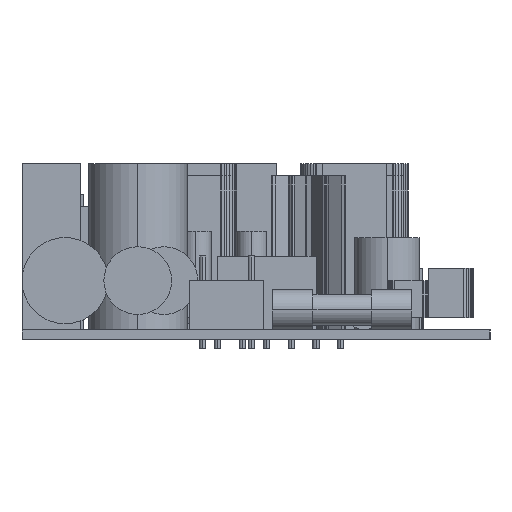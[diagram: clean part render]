
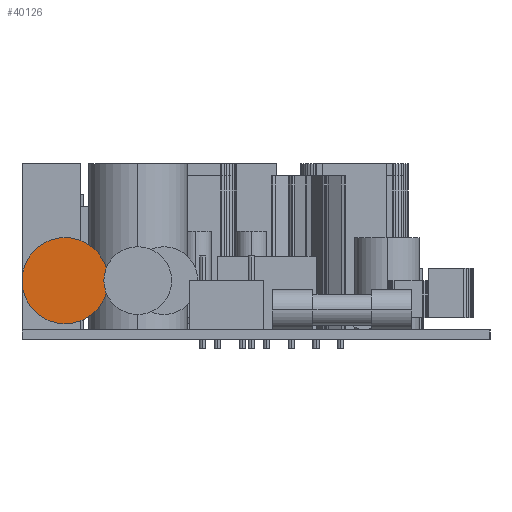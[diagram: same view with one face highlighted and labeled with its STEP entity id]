
A CAD part, left-side view. The second image highlights one B-rep face of the part: STEP entity #40126.
In plain terms, the highlighted planar face has unit normal (-1, 0, 0) as drawn and (0, 0, -1) by its records, which use the part's own axes.
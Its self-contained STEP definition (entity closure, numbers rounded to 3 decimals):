
#40047=CARTESIAN_POINT('',(0.,0.,0.));
#40048=DIRECTION('',(0.,0.,1.));
#40049=DIRECTION('',(1.,0.,0.));
#40050=AXIS2_PLACEMENT_3D('',#40047,#40048,#40049);
#40055=CARTESIAN_POINT('',(0.,0.,0.));
#40056=DIRECTION('',(0.,0.,1.));
#40057=DIRECTION('',(-1.,0.,0.));
#40058=AXIS2_PLACEMENT_3D('',#40055,#40056,#40057);
#40080=CARTESIAN_POINT('',(-7.,0.,0.));
#40082=VERTEX_POINT('',#40080);
#40083=CARTESIAN_POINT('',(7.,0.,0.));
#40084=VERTEX_POINT('',#40083);
#40117=CARTESIAN_POINT('',(7.,0.,0.));
#40118=DIRECTION('',(0.,0.,-1.));
#40119=DIRECTION('',(-1.,0.,0.));
#40120=AXIS2_PLACEMENT_3D('',#40117,#40118,#40119);
#40121=PLANE('',#40120);
#40122=ORIENTED_EDGE('',*,*,#40109,.T.);
#40123=ORIENTED_EDGE('',*,*,#40098,.T.);
#40124=EDGE_LOOP('',(#40122,#40123));
#40125=FACE_OUTER_BOUND('',#40124,.F.);
#40051=CIRCLE('',#40050,7.);
#40059=CIRCLE('',#40058,7.);
#40098=EDGE_CURVE('',#40082,#40084,#40059,.T.);
#40109=EDGE_CURVE('',#40084,#40082,#40051,.T.);
#40126=ADVANCED_FACE('',(#40125),#40121,.T.);
